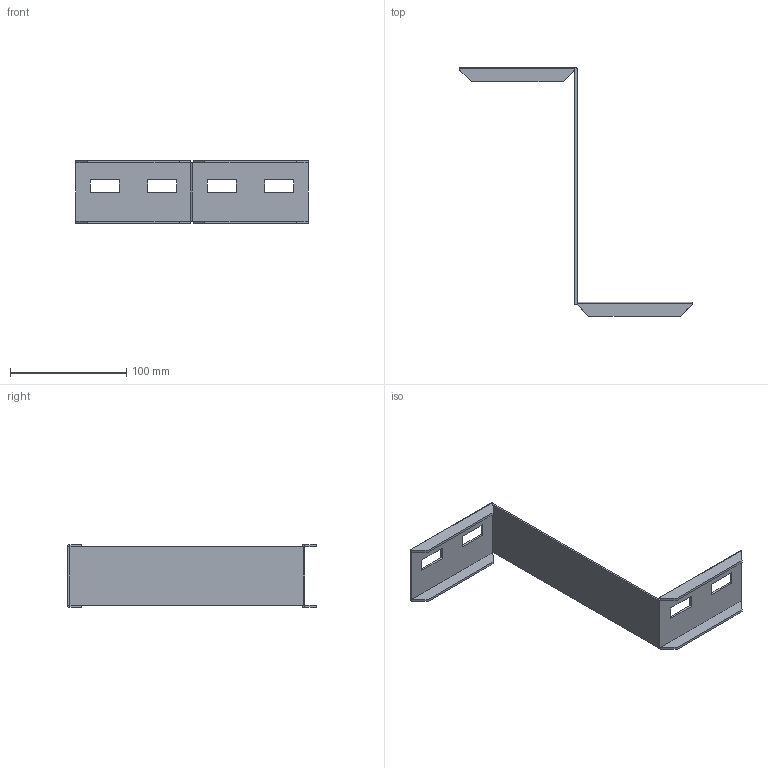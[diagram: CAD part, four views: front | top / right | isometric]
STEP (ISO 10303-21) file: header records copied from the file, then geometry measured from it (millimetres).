
FILE_DESCRIPTION(/* description */ ('','CAx-IF Rec.Pracs.---Representation and Presentation of Product Manufacturing Information (PMI)---4.0---2014-10-13'),/* implementation_level */ '2;1');
FILE_NAME(/* name */ 'Eurostrut_ELHR60-200_Left Hand Reducer for Cable Ladder ECL.step',/* time_stamp */ '2026-09-08T10:36:34+02:00',/* author */ (''),/* organization */ (''),/* preprocessor_version */ 'ST-DEVELOPER v20.1',/* originating_system */ 'Autodesk Revit 2027 27.2.0.39',/* authorisation */ '');
FILE_SCHEMA (('AP242_MANAGED_MODEL_BASED_3D_ENGINEERING_MIM_LF { 1 0 10303 442 2 1 4 }'));
Length unit declared in the file: millimetre
Products named in the file (4): TopLevelAssembly; Joined Solid Geometry; Joined Solid Geometry_1; Joined Solid Geometry_2
Assembly tree (3 placements, depth 2):
  TopLevelAssembly
    Joined Solid Geometry
    Joined Solid Geometry_1
    Joined Solid Geometry_2
Bounding box: 200 x 214 x 54 mm (x, y, z)
Volume: 46597.6 mm3; surface area: 50554.8 mm2
Topology: 5 solids, 5 shells, 64 faces, 162 edges, 108 vertices
Faces by surface type: plane 58, cylinder 6
Entity records: 1984 total; most frequent: CARTESIAN_POINT 341, ORIENTED_EDGE 324, DIRECTION 316, EDGE_CURVE 162, LINE 150, VECTOR 150, VERTEX_POINT 108, AXIS2_PLACEMENT_3D 83
